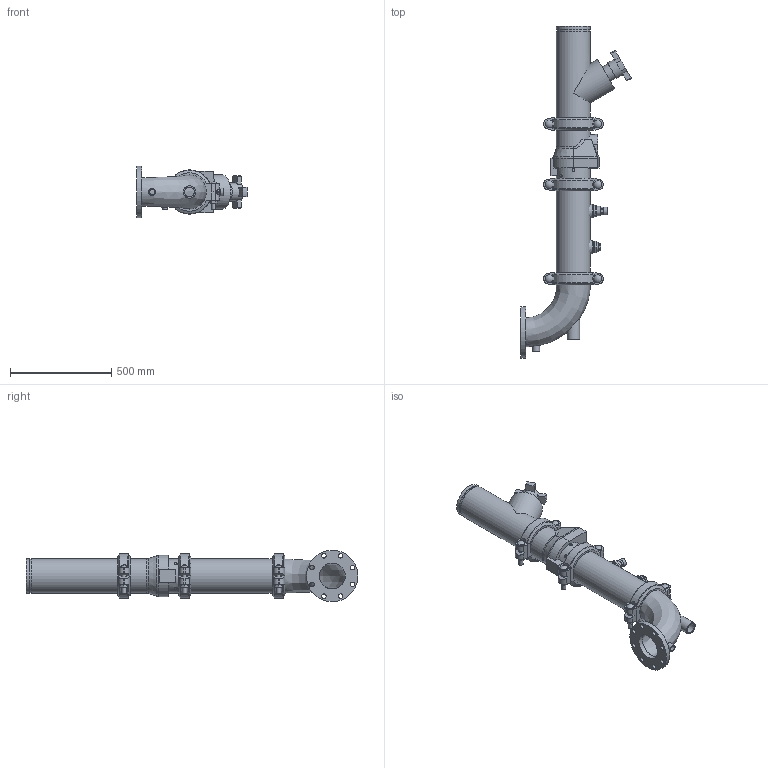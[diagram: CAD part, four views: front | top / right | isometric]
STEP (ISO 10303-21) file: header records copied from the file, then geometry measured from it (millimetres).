
FILE_DESCRIPTION(/* description */ ('VIC DVI PUMP DROP HORZ S/383 (OGSxFLG) (S/924-0.75)','CAx-IF Rec.Pracs.---Representation and Presentation of Product Manufacturing Information (PMI)---4.0---2014-10-13'),/* implementation_level */ '2;1');
FILE_NAME(/* name */ 'C:\Users\kkamble\AppData\Roaming\Autodesk\ApplicationPlugins\Victaulic.Temp\A821\CL 150_Series 383 (OGSxFLG)_924 (0.75)_06.0x05.0 (150x125).stp',/* time_stamp */ '2022-03-16T18:46:04+05:00',/* author */ ('kkamble'),/* organization */ ('Victaulic'),/* preprocessor_version */ 'ST-DEVELOPER v17.2',/* originating_system */ 'Autodesk Inventor 2019',/* authorisation */ '');
FILE_SCHEMA (('AP242_MANAGED_MODEL_BASED_3D_ENGINEERING_MIM_LF { 1 0 10303 442 1 1 4 }'));
Length unit declared in the file: inch
Products named in the file (8): 383_924 (0.75)-06.0x05.0; Pipe-06.0x04.0; 789-06.0; 177N-06.0; 779-06.0; 924-04.0x0.75; 923-04.0x0.75; R100F-06.0x05.0
Assembly tree (9 placements, depth 2):
  383_924 (0.75)-06.0x05.0
    177N-06.0  x3
    Pipe-06.0x04.0
    789-06.0
    779-06.0
    924-04.0x0.75
    923-04.0x0.75
    R100F-06.0x05.0
Bounding box: 546.1 x 1638.3 x 254 mm (x, y, z)
Volume: 15477229 mm3; surface area: 2491925.4 mm2
Topology: 9 solids, 9 shells, 529 faces, 1395 edges, 936 vertices
Faces by surface type: plane 305, cylinder 177, torus 18, cone 17, sphere 6, bspline 6
Full cylindrical faces by diameter (mm): 13.716 x4, 21.209 x6, 22.352 x8, 26.67 x3, 34.29 x1, 37.694 x6, 38.608 x1, 45.974 x4, 48.26 x1, 55.626 x2, 60.96 x1, 79.375 x1, 88.9 x1, 128.194 x1, 154.051 x4, 155.575 x3, 163.957 x7, 168.275 x18, 254 x1
Entity records: 12832 total; most frequent: CARTESIAN_POINT 3455, DIRECTION 1916, ORIENTED_EDGE 1770, EDGE_CURVE 885, AXIS2_PLACEMENT_3D 734, VERTEX_POINT 600, LINE 448, VECTOR 448
